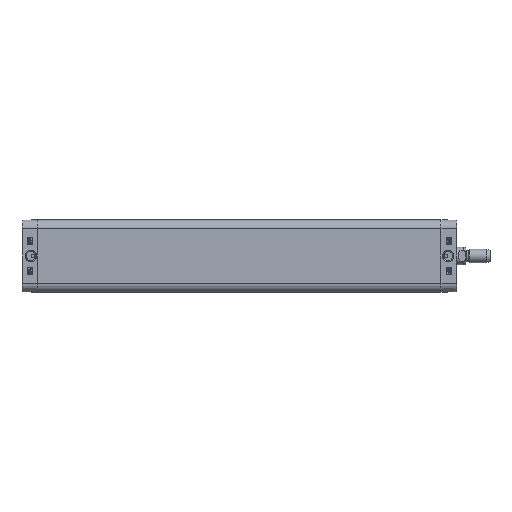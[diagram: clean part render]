
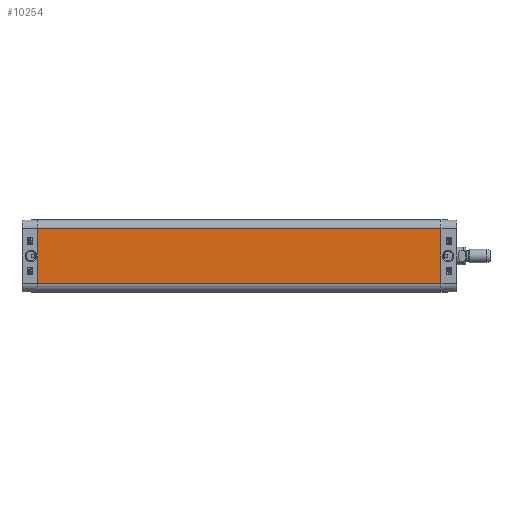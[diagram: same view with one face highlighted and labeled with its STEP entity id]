
A CAD part, left-side view. The second image highlights one B-rep face of the part: STEP entity #10254.
In plain terms, the highlighted planar face has unit normal (-1, 0, 0).
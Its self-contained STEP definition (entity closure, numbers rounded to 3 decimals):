
#5256=CARTESIAN_POINT('',(-32.75,-366.0,24.75));
#5257=VERTEX_POINT('',#5256);
#5264=CARTESIAN_POINT('',(-32.75,-366.0,-24.75));
#5265=VERTEX_POINT('',#5264);
#5266=CARTESIAN_POINT('',(-32.75,-366.0,-24.75));
#5267=DIRECTION('',(0.0,0.0,1.0));
#5268=VECTOR('',#5267,49.5);
#5269=LINE('',#5266,#5268);
#5270=EDGE_CURVE('',#5265,#5257,#5269,.T.);
#10212=CARTESIAN_POINT('',(-32.75,0.0,-24.75));
#10213=VERTEX_POINT('',#10212);
#10214=CARTESIAN_POINT('',(-32.75,0.0,-24.75));
#10215=DIRECTION('',(0.0,-1.0,0.0));
#10216=VECTOR('',#10215,366.0);
#10217=LINE('',#10214,#10216);
#10218=EDGE_CURVE('',#10213,#5265,#10217,.T.);
#10231=CARTESIAN_POINT('',(-32.75,0.0,-24.75));
#10232=DIRECTION('',(-1.0,0.0,0.0));
#10233=DIRECTION('',(0.0,0.0,1.0));
#10234=AXIS2_PLACEMENT_3D('',#10231,#10232,#10233);
#10235=PLANE('',#10234);
#10236=ORIENTED_EDGE('',*,*,#5270,.T.);
#10237=CARTESIAN_POINT('',(-32.75,0.0,24.75));
#10238=VERTEX_POINT('',#10237);
#10239=CARTESIAN_POINT('',(-32.75,0.0,24.75));
#10240=DIRECTION('',(0.0,-1.0,0.0));
#10241=VECTOR('',#10240,366.0);
#10242=LINE('',#10239,#10241);
#10243=EDGE_CURVE('',#10238,#5257,#10242,.T.);
#10244=ORIENTED_EDGE('',*,*,#10243,.F.);
#10245=CARTESIAN_POINT('',(-32.75,0.0,-24.75));
#10246=DIRECTION('',(0.0,0.0,1.0));
#10247=VECTOR('',#10246,49.5);
#10248=LINE('',#10245,#10247);
#10249=EDGE_CURVE('',#10213,#10238,#10248,.T.);
#10250=ORIENTED_EDGE('',*,*,#10249,.F.);
#10251=ORIENTED_EDGE('',*,*,#10218,.T.);
#10252=EDGE_LOOP('',(#10236,#10244,#10250,#10251));
#10253=FACE_OUTER_BOUND('',#10252,.T.);
#10254=ADVANCED_FACE('',(#10253),#10235,.T.);
